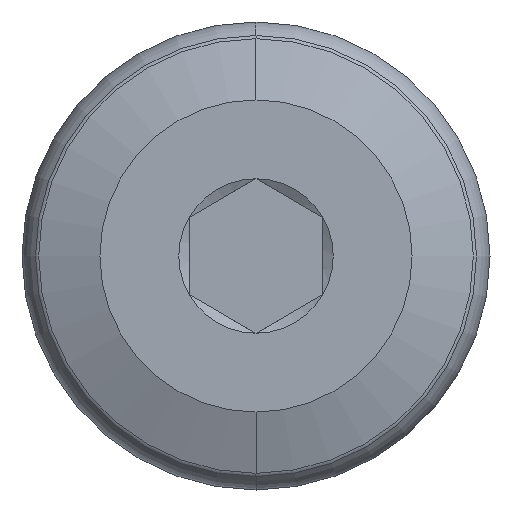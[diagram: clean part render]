
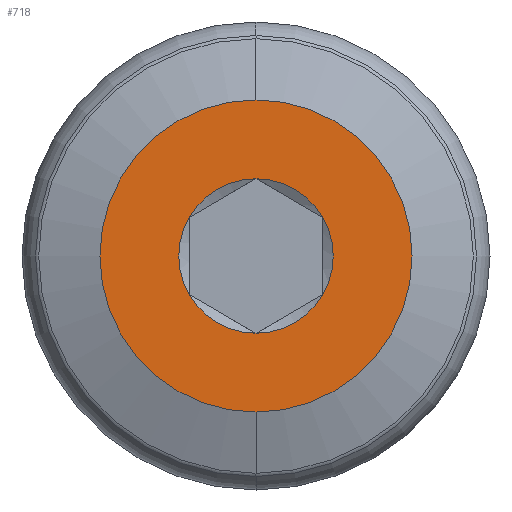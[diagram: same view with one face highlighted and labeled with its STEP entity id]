
A CAD part, left-side view. The second image highlights one B-rep face of the part: STEP entity #718.
In plain terms, the highlighted planar face has unit normal (-1, 0, 0).
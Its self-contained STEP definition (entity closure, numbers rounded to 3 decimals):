
#5 = AXIS2_PLACEMENT_3D ( 'NONE', #633, #184, #375 ) ;
#7 = AXIS2_PLACEMENT_3D ( 'NONE', #327, #807, #201 ) ;
#13 = DIRECTION ( 'NONE',  ( -1., 0., 0. ) ) ;
#33 = AXIS2_PLACEMENT_3D ( 'NONE', #550, #105, #284 ) ;
#34 = CIRCLE ( 'NONE', #458, 3.5 ) ;
#46 = ORIENTED_EDGE ( 'NONE', *, *, #402, .T. ) ;
#62 = EDGE_CURVE ( 'NONE', #720, #285, #506, .T. ) ;
#86 = AXIS2_PLACEMENT_3D ( 'NONE', #294, #104, #310 ) ;
#90 = DIRECTION ( 'NONE',  ( 1., 0., 0. ) ) ;
#100 = DIRECTION ( 'NONE',  ( 0., 0., -1. ) ) ;
#104 = DIRECTION ( 'NONE',  ( 1., 0., 0. ) ) ;
#105 = DIRECTION ( 'NONE',  ( 1., 0., 0. ) ) ;
#106 = ORIENTED_EDGE ( 'NONE', *, *, #274, .F. ) ;
#112 = CIRCLE ( 'NONE', #7, 1.732 ) ;
#122 = AXIS2_PLACEMENT_3D ( 'NONE', #771, #308, #583 ) ;
#151 = EDGE_LOOP ( 'NONE', ( #542, #106 ) ) ;
#184 = DIRECTION ( 'NONE',  ( 1., 0., 0. ) ) ;
#185 = ORIENTED_EDGE ( 'NONE', *, *, #666, .T. ) ;
#198 = PLANE ( 'NONE',  #537 ) ;
#201 = DIRECTION ( 'NONE',  ( 0., 0., -1. ) ) ;
#210 = CARTESIAN_POINT ( 'NONE',  ( 0., 0., 0. ) ) ;
#223 = VERTEX_POINT ( 'NONE', #734 ) ;
#257 = CARTESIAN_POINT ( 'NONE',  ( 0., 1.5, 0.866 ) ) ;
#274 = EDGE_CURVE ( 'NONE', #493, #809, #534, .T. ) ;
#282 = ORIENTED_EDGE ( 'NONE', *, *, #587, .T. ) ;
#284 = DIRECTION ( 'NONE',  ( 0., 0., -1. ) ) ;
#285 = VERTEX_POINT ( 'NONE', #541 ) ;
#294 = CARTESIAN_POINT ( 'NONE',  ( 0., 0., 0. ) ) ;
#307 = EDGE_CURVE ( 'NONE', #223, #720, #368, .T. ) ;
#308 = DIRECTION ( 'NONE',  ( 1., 0., 0. ) ) ;
#310 = DIRECTION ( 'NONE',  ( 0., 0., -1. ) ) ;
#320 = EDGE_LOOP ( 'NONE', ( #813, #282, #826, #510, #46, #185 ) ) ;
#327 = CARTESIAN_POINT ( 'NONE',  ( 0., 0., 0. ) ) ;
#368 = CIRCLE ( 'NONE', #426, 1.732 ) ;
#374 = CARTESIAN_POINT ( 'NONE',  ( 0., 1.5, -0.866 ) ) ;
#375 = DIRECTION ( 'NONE',  ( 0., 0., -1. ) ) ;
#402 = EDGE_CURVE ( 'NONE', #285, #630, #442, .T. ) ;
#403 = FACE_OUTER_BOUND ( 'NONE', #151, .T. ) ;
#415 = CARTESIAN_POINT ( 'NONE',  ( 0., 0., 0. ) ) ;
#426 = AXIS2_PLACEMENT_3D ( 'NONE', #210, #90, #800 ) ;
#430 = CARTESIAN_POINT ( 'NONE',  ( 0., 0., 3.5 ) ) ;
#442 = CIRCLE ( 'NONE', #33, 1.732 ) ;
#458 = AXIS2_PLACEMENT_3D ( 'NONE', #688, #626, #100 ) ;
#463 = CARTESIAN_POINT ( 'NONE',  ( 0., 0., 1.732 ) ) ;
#466 = CARTESIAN_POINT ( 'NONE',  ( 0., -1.5, -0.866 ) ) ;
#493 = VERTEX_POINT ( 'NONE', #430 ) ;
#495 = CIRCLE ( 'NONE', #122, 1.732 ) ;
#506 = CIRCLE ( 'NONE', #5, 1.732 ) ;
#510 = ORIENTED_EDGE ( 'NONE', *, *, #62, .T. ) ;
#534 = CIRCLE ( 'NONE', #602, 3.5 ) ;
#535 = CIRCLE ( 'NONE', #86, 1.732 ) ;
#537 = AXIS2_PLACEMENT_3D ( 'NONE', #654, #13, #663 ) ;
#541 = CARTESIAN_POINT ( 'NONE',  ( 0., 0., -1.732 ) ) ;
#542 = ORIENTED_EDGE ( 'NONE', *, *, #799, .F. ) ;
#550 = CARTESIAN_POINT ( 'NONE',  ( 0., 0., 0. ) ) ;
#555 = VERTEX_POINT ( 'NONE', #463 ) ;
#556 = CARTESIAN_POINT ( 'NONE',  ( 0., 0., -3.5 ) ) ;
#583 = DIRECTION ( 'NONE',  ( 0., 0., -1. ) ) ;
#587 = EDGE_CURVE ( 'NONE', #555, #223, #495, .T. ) ;
#602 = AXIS2_PLACEMENT_3D ( 'NONE', #415, #794, #672 ) ;
#609 = VERTEX_POINT ( 'NONE', #257 ) ;
#626 = DIRECTION ( 'NONE',  ( 1., 0., 0. ) ) ;
#630 = VERTEX_POINT ( 'NONE', #374 ) ;
#633 = CARTESIAN_POINT ( 'NONE',  ( 0., 0., 0. ) ) ;
#654 = CARTESIAN_POINT ( 'NONE',  ( 0., 3.5, 0. ) ) ;
#663 = DIRECTION ( 'NONE',  ( 0., 0., 1. ) ) ;
#666 = EDGE_CURVE ( 'NONE', #630, #609, #112, .T. ) ;
#672 = DIRECTION ( 'NONE',  ( 0., 0., -1. ) ) ;
#688 = CARTESIAN_POINT ( 'NONE',  ( 0., 0., 0. ) ) ;
#718 = ADVANCED_FACE ( 'NONE', ( #810, #403 ), #198, .T. ) ;
#720 = VERTEX_POINT ( 'NONE', #466 ) ;
#734 = CARTESIAN_POINT ( 'NONE',  ( 0., -1.5, 0.866 ) ) ;
#771 = CARTESIAN_POINT ( 'NONE',  ( 0., 0., 0. ) ) ;
#794 = DIRECTION ( 'NONE',  ( 1., 0., 0. ) ) ;
#799 = EDGE_CURVE ( 'NONE', #809, #493, #34, .T. ) ;
#800 = DIRECTION ( 'NONE',  ( 0., 0., -1. ) ) ;
#807 = DIRECTION ( 'NONE',  ( 1., 0., 0. ) ) ;
#809 = VERTEX_POINT ( 'NONE', #556 ) ;
#810 = FACE_BOUND ( 'NONE', #320, .T. ) ;
#813 = ORIENTED_EDGE ( 'NONE', *, *, #820, .T. ) ;
#820 = EDGE_CURVE ( 'NONE', #609, #555, #535, .T. ) ;
#826 = ORIENTED_EDGE ( 'NONE', *, *, #307, .T. ) ;
